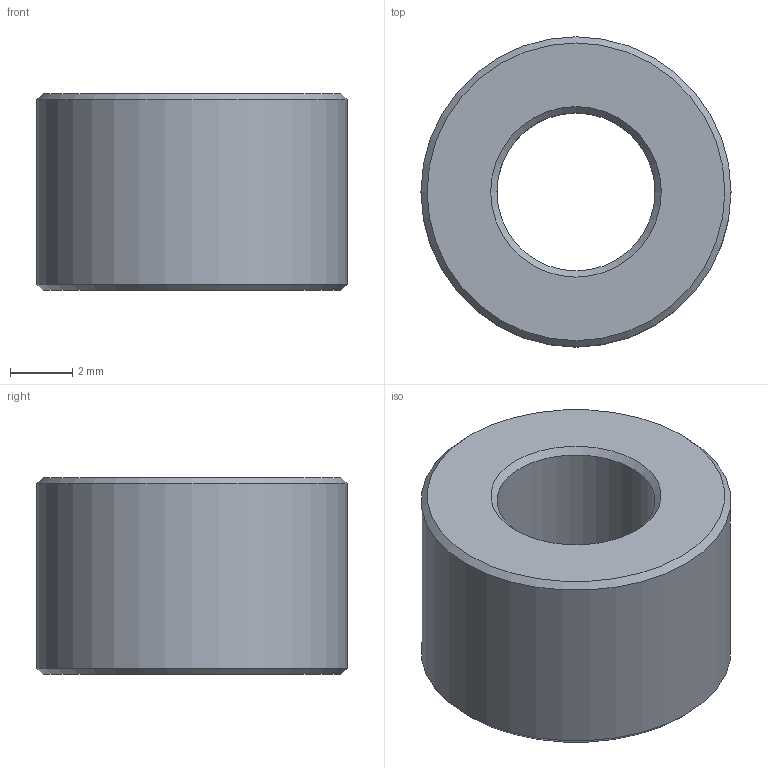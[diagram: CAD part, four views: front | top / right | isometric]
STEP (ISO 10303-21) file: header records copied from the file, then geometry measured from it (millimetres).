
FILE_DESCRIPTION(('FreeCAD Model'),'2;1');
FILE_NAME('Open CASCADE Shape Model','2021-05-03T16:27:02',('Author'),( ''),'Open CASCADE STEP processor 7.5','FreeCAD','Unknown');
FILE_SCHEMA(('AUTOMOTIVE_DESIGN { 1 0 10303 214 1 1 1 1 }'));
Length unit declared in the file: millimetre
Products named in the file (1): Aluminum Spacer .25in v1
Bounding box: 10 x 10 x 6.35 mm (x, y, z)
Volume: 367.1 mm3; surface area: 406.3 mm2
Topology: 1 solids, 1 shells, 8 faces, 18 edges, 12 vertices
Faces by surface type: cone 4, plane 2, cylinder 2
Full cylindrical faces by diameter (mm): 5.1 x1, 10 x1
Entity records: 494 total; most frequent: DIRECTION 84, CARTESIAN_POINT 75, ORIENTED_EDGE 36, PCURVE 36, DEFINITIONAL_REPRESENTATION 36, LINE 36, VECTOR 36, AXIS2_PLACEMENT_3D 21
